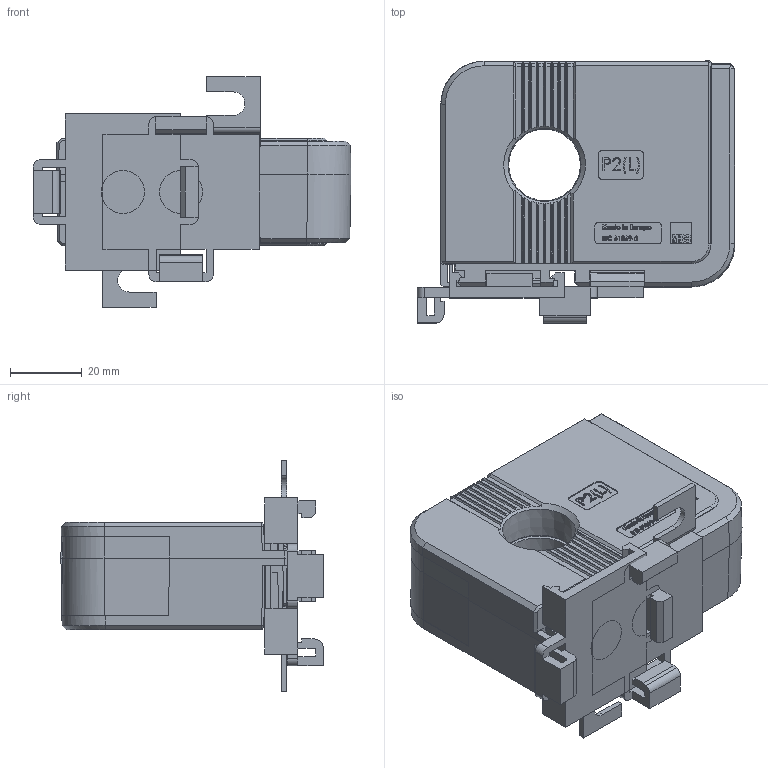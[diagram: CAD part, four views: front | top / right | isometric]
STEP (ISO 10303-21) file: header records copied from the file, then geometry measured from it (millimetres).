
FILE_DESCRIPTION (( 'STEP AP214' ), '1' );
FILE_NAME ('DACT20-Wandler_kpl.STEP', '2018-07-18T08:12:09', ( '' ), ( '' ), 'SwSTEP 2.0', 'SolidWorks 2016', '' );
FILE_SCHEMA (( 'AUTOMOTIVE_DESIGN' ));
Length unit declared in the file: millimetre
Products named in the file (4): DACT20_Grundmodell_4polige Variante; Schnappbefestigung_55014; Fusswinkel_1,5; DACT20-Wandler_kpl
Assembly tree (5 placements, depth 2):
  DACT20-Wandler_kpl
    Fusswinkel_1,5  x2
    Schnappbefestigung_55014  x2
    DACT20_Grundmodell_4polige Variante
Bounding box: 88.5 x 73 x 64.2 mm (x, y, z)
Volume: 148784.2 mm3; surface area: 41702.3 mm2
Topology: 6 solids, 6 shells, 1248 faces, 3307 edges, 2125 vertices
Faces by surface type: plane 898, bspline 168, cylinder 143, cone 18, torus 17, sphere 4
Full cylindrical faces by diameter (mm): 12 x2, 22 x1
Entity records: 43959 total; most frequent: CARTESIAN_POINT 16982, ORIENTED_EDGE 6034, DIRECTION 4663, EDGE_CURVE 3017, LINE 2281, VECTOR 2281, VERTEX_POINT 1937, EDGE_LOOP 1230
